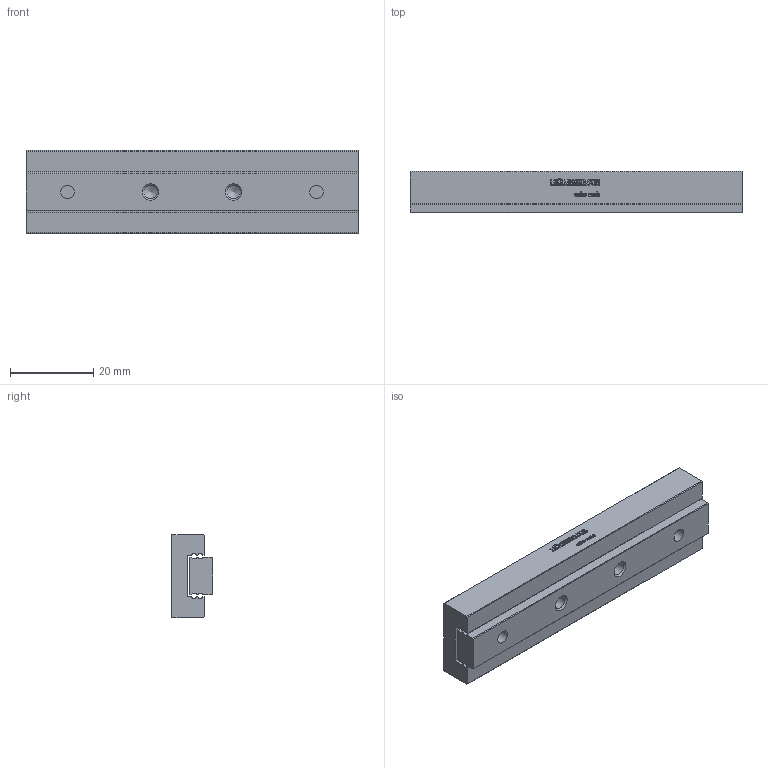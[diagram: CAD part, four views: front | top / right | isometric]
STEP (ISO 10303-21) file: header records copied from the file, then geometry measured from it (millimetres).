
FILE_DESCRIPTION(/* description */ ('STEP AP214'),/* implementation_level */ '2;1');
FILE_NAME(/* name */ 'MSK 9-80.70(0)',/* time_stamp */ '2025-04-16T17:01:39+02:00',/* author */ ('License CC BY-ND 4.0'),/* organization */ ('CADENAS'),/* preprocessor_version */ 'ST-DEVELOPER v19.3',/* originating_system */ 'PARTsolutions',/* authorisation */ ' ');
FILE_SCHEMA (('AUTOMOTIVE_DESIGN {1 0 10303 214 3 1 1}'));
Length unit declared in the file: millimetre
Products named in the file (3): MSK 9-80.70(0); MSK 9-80.70_1; MSK 9-80.70_2
Assembly tree (2 placements, depth 2):
  MSK 9-80.70(0)
    MSK 9-80.70_1
    MSK 9-80.70_2
Bounding box: 80 x 10 x 20 mm (x, y, z)
Volume: 12648.2 mm3; surface area: 8713.5 mm2
Topology: 2 solids, 2 shells, 557 faces, 1512 edges, 1002 vertices
Faces by surface type: cylinder 320, plane 219, cone 18
Full cylindrical faces by diameter (mm): 2.459 x14, 3.242 x4, 6 x2
Entity records: 17681 total; most frequent: DIRECTION 3248, CARTESIAN_POINT 3034, ORIENTED_EDGE 2944, EDGE_CURVE 1472, AXIS2_PLACEMENT_3D 1216, VERTEX_POINT 1002, LINE 816, VECTOR 816
